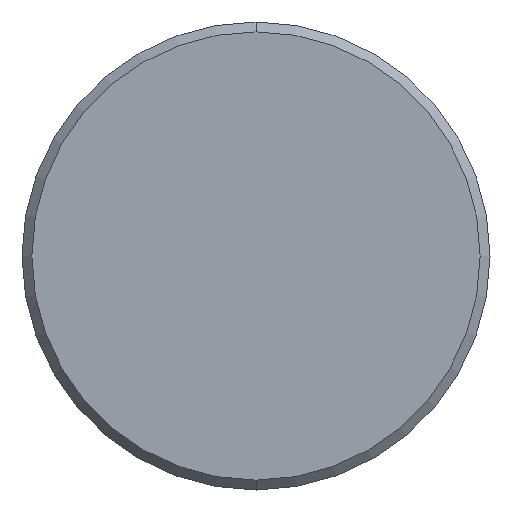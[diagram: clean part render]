
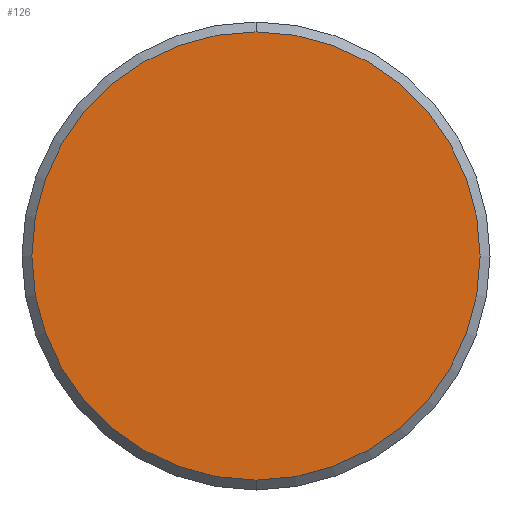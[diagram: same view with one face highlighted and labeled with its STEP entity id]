
A CAD part, left-side view. The second image highlights one B-rep face of the part: STEP entity #126.
In plain terms, the highlighted planar face has unit normal (-1, 0, 0).
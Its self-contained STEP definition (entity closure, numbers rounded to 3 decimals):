
#8 = AXIS2_PLACEMENT_3D ( 'NONE', #310, #65, #356 ) ;
#65 = DIRECTION ( 'NONE',  ( -1., 0., 0. ) ) ;
#81 = CIRCLE ( 'NONE', #147, 45.5 ) ;
#124 = DIRECTION ( 'NONE',  ( 0., 0., -1. ) ) ;
#126 = ADVANCED_FACE ( 'NONE', ( #327 ), #274, .F. ) ;
#147 = AXIS2_PLACEMENT_3D ( 'NONE', #443, #319, #124 ) ;
#157 = ORIENTED_EDGE ( 'NONE', *, *, #211, .T. ) ;
#192 = EDGE_LOOP ( 'NONE', ( #381, #157 ) ) ;
#197 = DIRECTION ( 'NONE',  ( 0., 0., -1. ) ) ;
#211 = EDGE_CURVE ( 'NONE', #231, #469, #483, .T. ) ;
#231 = VERTEX_POINT ( 'NONE', #308 ) ;
#265 = EDGE_CURVE ( 'NONE', #469, #231, #81, .T. ) ;
#274 = PLANE ( 'NONE',  #410 ) ;
#297 = CARTESIAN_POINT ( 'NONE',  ( 0., 0., 0. ) ) ;
#308 = CARTESIAN_POINT ( 'NONE',  ( 0., 0., 45.5 ) ) ;
#310 = CARTESIAN_POINT ( 'NONE',  ( 0., 0., 0. ) ) ;
#319 = DIRECTION ( 'NONE',  ( -1., 0., 0. ) ) ;
#327 = FACE_OUTER_BOUND ( 'NONE', #192, .T. ) ;
#354 = DIRECTION ( 'NONE',  ( 1., 0., 0. ) ) ;
#356 = DIRECTION ( 'NONE',  ( 0., 0., -1. ) ) ;
#381 = ORIENTED_EDGE ( 'NONE', *, *, #265, .T. ) ;
#410 = AXIS2_PLACEMENT_3D ( 'NONE', #297, #354, #197 ) ;
#443 = CARTESIAN_POINT ( 'NONE',  ( 0., 0., 0. ) ) ;
#469 = VERTEX_POINT ( 'NONE', #502 ) ;
#483 = CIRCLE ( 'NONE', #8, 45.5 ) ;
#502 = CARTESIAN_POINT ( 'NONE',  ( 0., 0., -45.5 ) ) ;
